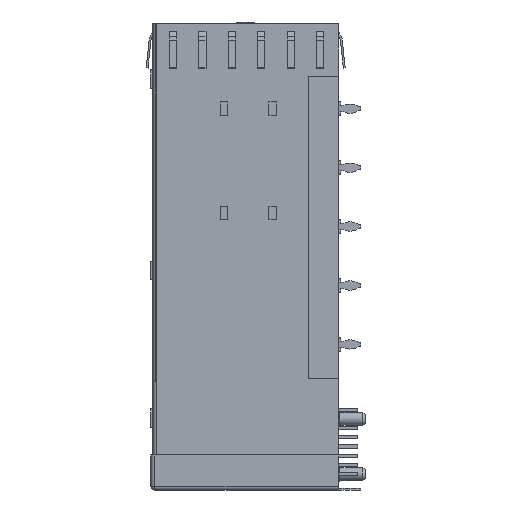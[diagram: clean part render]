
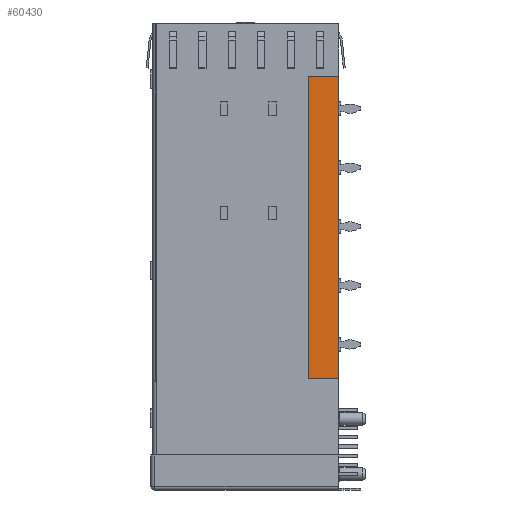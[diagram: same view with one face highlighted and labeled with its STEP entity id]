
A CAD part, left-side view. The second image highlights one B-rep face of the part: STEP entity #60430.
In plain terms, the highlighted planar face has unit normal (-1, 0, 0).
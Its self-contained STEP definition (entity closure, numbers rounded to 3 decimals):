
#3363 = FACE_OUTER_BOUND ( 'NONE', #58251, .T. ) ;
#3693 = ORIENTED_EDGE ( 'NONE', *, *, #61489, .F. ) ;
#9697 = LINE ( 'NONE', #53828, #53456 ) ;
#12117 = PLANE ( 'NONE',  #12353 ) ;
#12353 = AXIS2_PLACEMENT_3D ( 'NONE', #52038, #57755, #23644 ) ;
#12558 = VECTOR ( 'NONE', #26968, 1000. ) ;
#12671 = ORIENTED_EDGE ( 'NONE', *, *, #48853, .F. ) ;
#14055 = VERTEX_POINT ( 'NONE', #65953 ) ;
#15751 = VERTEX_POINT ( 'NONE', #57979 ) ;
#20245 = LINE ( 'NONE', #61613, #48812 ) ;
#21824 = DIRECTION ( 'NONE',  ( 0., 0., 1. ) ) ;
#23644 = DIRECTION ( 'NONE',  ( 0., 0., 1. ) ) ;
#24426 = CARTESIAN_POINT ( 'NONE',  ( -28.875, 4.1, -7.1 ) ) ;
#24905 = CARTESIAN_POINT ( 'NONE',  ( -28.875, 0., -7.1 ) ) ;
#26968 = DIRECTION ( 'NONE',  ( 0., 0., -1. ) ) ;
#33026 = EDGE_CURVE ( 'NONE', #64210, #15751, #69586, .T. ) ;
#33293 = DIRECTION ( 'NONE',  ( 0., -1., 0. ) ) ;
#35628 = ORIENTED_EDGE ( 'NONE', *, *, #63828, .F. ) ;
#48812 = VECTOR ( 'NONE', #33293, 1000. ) ;
#48853 = EDGE_CURVE ( 'NONE', #15751, #14055, #9697, .T. ) ;
#49192 = VERTEX_POINT ( 'NONE', #24426 ) ;
#50959 = ORIENTED_EDGE ( 'NONE', *, *, #33026, .F. ) ;
#52038 = CARTESIAN_POINT ( 'NONE',  ( -28.875, 0., 0. ) ) ;
#53456 = VECTOR ( 'NONE', #59589, 1000. ) ;
#53828 = CARTESIAN_POINT ( 'NONE',  ( -28.875, 0., -48.1 ) ) ;
#55938 = CARTESIAN_POINT ( 'NONE',  ( -28.875, 4.1, -7.1 ) ) ;
#57642 = VECTOR ( 'NONE', #21824, 1000. ) ;
#57755 = DIRECTION ( 'NONE',  ( 1., 0., 0. ) ) ;
#57979 = CARTESIAN_POINT ( 'NONE',  ( -28.875, 0., -48.1 ) ) ;
#58251 = EDGE_LOOP ( 'NONE', ( #35628, #3693, #12671, #50959 ) ) ;
#59589 = DIRECTION ( 'NONE',  ( 0., 1., 0. ) ) ;
#60430 = ADVANCED_FACE ( 'NONE', ( #3363 ), #12117, .F. ) ;
#61080 = CARTESIAN_POINT ( 'NONE',  ( -28.875, 0., -7.1 ) ) ;
#61226 = LINE ( 'NONE', #55938, #57642 ) ;
#61489 = EDGE_CURVE ( 'NONE', #14055, #49192, #61226, .T. ) ;
#61613 = CARTESIAN_POINT ( 'NONE',  ( -28.875, 0., -7.1 ) ) ;
#63828 = EDGE_CURVE ( 'NONE', #49192, #64210, #20245, .T. ) ;
#64210 = VERTEX_POINT ( 'NONE', #24905 ) ;
#65953 = CARTESIAN_POINT ( 'NONE',  ( -28.875, 4.1, -48.1 ) ) ;
#69586 = LINE ( 'NONE', #61080, #12558 ) ;
